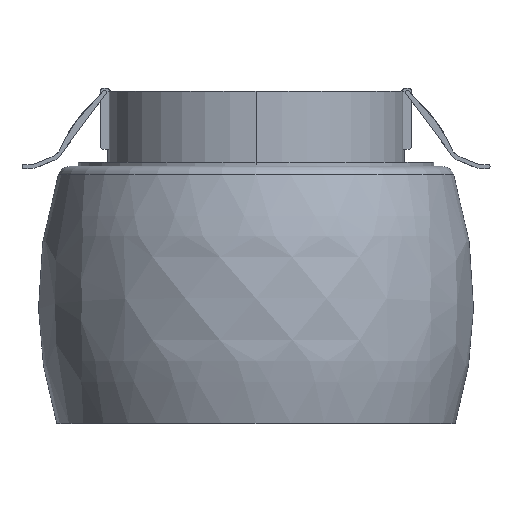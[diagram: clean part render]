
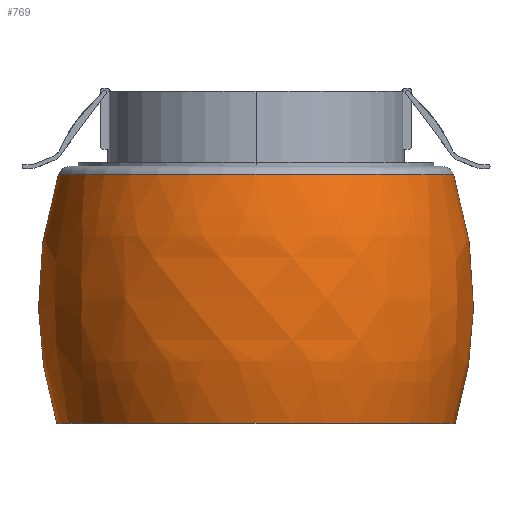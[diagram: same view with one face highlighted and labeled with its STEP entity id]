
A CAD part, top view. The second image highlights one B-rep face of the part: STEP entity #769.
In plain terms, the highlighted free-form (B-spline) face has degree [2, 3] with [3, 4] control points.
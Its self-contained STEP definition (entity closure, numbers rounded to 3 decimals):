
#48 = CARTESIAN_POINT ( 'NONE',  ( 50.351, -32.5, 0. ) ) ;
#116 = CARTESIAN_POINT ( 'NONE',  ( -49.972, 30.404, 0. ) ) ;
#144 = CARTESIAN_POINT ( 'NONE',  ( -50.351, -32.5, 0. ) ) ;
#183 = CARTESIAN_POINT ( 'NONE',  ( -50.351, -32.5, 100.703 ) ) ;
#301 = CARTESIAN_POINT ( 'NONE',  ( 0., 30.404, 0. ) ) ;
#486 = CARTESIAN_POINT ( 'NONE',  ( -50.351, -32.5, 0. ) ) ;
#500 = CARTESIAN_POINT ( 'NONE',  ( -59.859, -0.893, 0. ) ) ;
#607 = EDGE_CURVE ( 'NONE', #1141, #2049, #850, .T. ) ;
#763 = DIRECTION ( 'NONE',  ( 0., 1., 0. ) ) ;
#769 = ADVANCED_FACE ( 'NONE', ( #1701 ), #3756, .T. ) ;
#780 = CARTESIAN_POINT ( 'NONE',  ( 59.859, -0.893, 119.719 ) ) ;
#824 = CARTESIAN_POINT ( 'NONE',  ( -59.859, -0.893, 119.719 ) ) ;
#850 = CIRCLE ( 'NONE', #2718, 50.351 ) ;
#859 = DIRECTION ( 'NONE',  ( 0., -1., 0. ) ) ;
#873 = AXIS2_PLACEMENT_3D ( 'NONE', #301, #859, #3626 ) ;
#889 = EDGE_CURVE ( 'NONE', #1491, #2049, #2126, .T. ) ;
#1124 = CARTESIAN_POINT ( 'NONE',  ( 59.859, -0.893, 0. ) ) ;
#1141 = VERTEX_POINT ( 'NONE', #144 ) ;
#1377 = CARTESIAN_POINT ( 'NONE',  ( 0., -32.5, 0. ) ) ;
#1491 = VERTEX_POINT ( 'NONE', #3951 ) ;
#1701 = FACE_OUTER_BOUND ( 'NONE', #2113, .T. ) ;
#1784 = CARTESIAN_POINT ( 'NONE',  ( -49.972, 30.404, 0. ) ) ;
#1912 = EDGE_CURVE ( 'NONE', #2543, #1141, #3073, .T. ) ;
#1974 = CIRCLE ( 'NONE', #873, 49.972 ) ;
#2049 = VERTEX_POINT ( 'NONE', #48 ) ;
#2113 = EDGE_LOOP ( 'NONE', ( #2619, #2245, #3225, #2760 ) ) ;
#2126 = B_SPLINE_CURVE_WITH_KNOTS ( 'NONE', 2,
 ( #2679, #1124, #2701 ),
 .UNSPECIFIED., .F., .F.,
 ( 3, 3 ),
 ( 0.032, 1. ),
 .UNSPECIFIED. ) ;
#2245 = ORIENTED_EDGE ( 'NONE', *, *, #3681, .T. ) ;
#2322 = CARTESIAN_POINT ( 'NONE',  ( 59.859, -0.893, 0. ) ) ;
#2543 = VERTEX_POINT ( 'NONE', #116 ) ;
#2619 = ORIENTED_EDGE ( 'NONE', *, *, #889, .F. ) ;
#2659 = CARTESIAN_POINT ( 'NONE',  ( -49.972, 30.404, 99.943 ) ) ;
#2679 = CARTESIAN_POINT ( 'NONE',  ( 49.972, 30.404, 0. ) ) ;
#2701 = CARTESIAN_POINT ( 'NONE',  ( 50.351, -32.5, 0. ) ) ;
#2718 = AXIS2_PLACEMENT_3D ( 'NONE', #1377, #763, #3213 ) ;
#2760 = ORIENTED_EDGE ( 'NONE', *, *, #607, .T. ) ;
#2989 = CARTESIAN_POINT ( 'NONE',  ( -50.351, -32.5, 0. ) ) ;
#3073 = B_SPLINE_CURVE_WITH_KNOTS ( 'NONE', 2,
 ( #3357, #3890, #2989 ),
 .UNSPECIFIED., .F., .F.,
 ( 3, 3 ),
 ( 0.032, 1. ),
 .UNSPECIFIED. ) ;
#3213 = DIRECTION ( 'NONE',  ( -1., 0., 0. ) ) ;
#3225 = ORIENTED_EDGE ( 'NONE', *, *, #1912, .T. ) ;
#3253 = CARTESIAN_POINT ( 'NONE',  ( 50.351, -32.5, 0. ) ) ;
#3271 = CARTESIAN_POINT ( 'NONE',  ( 49.972, 30.404, 99.943 ) ) ;
#3357 = CARTESIAN_POINT ( 'NONE',  ( -49.972, 30.404, 0. ) ) ;
#3612 = CARTESIAN_POINT ( 'NONE',  ( 50.351, -32.5, 100.703 ) ) ;
#3626 = DIRECTION ( 'NONE',  ( -1., 0., 0. ) ) ;
#3681 = EDGE_CURVE ( 'NONE', #1491, #2543, #1974, .T. ) ;
#3756 =( BOUNDED_SURFACE ( )  B_SPLINE_SURFACE ( 2, 3, ( 
 ( #1784, #2659, #3271, #3925 ),
 ( #500, #824, #780, #2322 ),
 ( #486, #183, #3612, #3253 ) ),
 .UNSPECIFIED., .F., .F., .T. ) 
 B_SPLINE_SURFACE_WITH_KNOTS ( ( 3, 3 ),
 ( 4, 4 ),
 ( 0.032, 1. ),
 ( 0., 1. ),
 .UNSPECIFIED. ) 
 GEOMETRIC_REPRESENTATION_ITEM ( )  RATIONAL_B_SPLINE_SURFACE ( (
 ( 1., 0.333, 0.333, 1.),
 ( 1., 0.333, 0.333, 1.),
 ( 1., 0.333, 0.333, 1.) ) ) 
 REPRESENTATION_ITEM ( '' )  SURFACE ( )  );
#3890 = CARTESIAN_POINT ( 'NONE',  ( -59.859, -0.893, 0. ) ) ;
#3925 = CARTESIAN_POINT ( 'NONE',  ( 49.972, 30.404, 0. ) ) ;
#3951 = CARTESIAN_POINT ( 'NONE',  ( 49.972, 30.404, 0. ) ) ;
